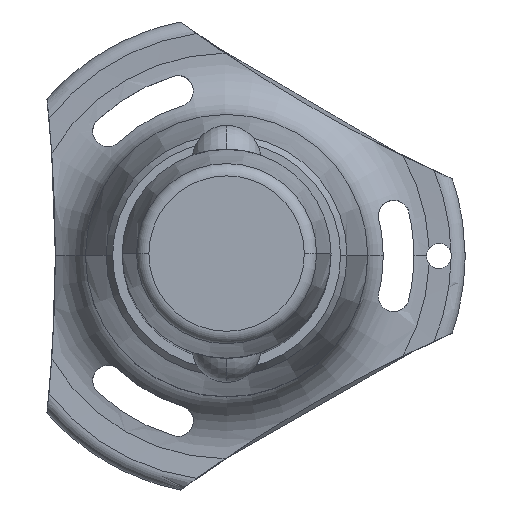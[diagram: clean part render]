
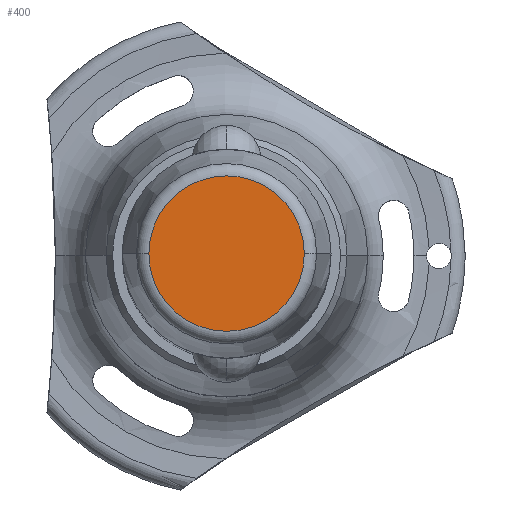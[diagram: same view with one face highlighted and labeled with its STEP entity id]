
A CAD part, top view. The second image highlights one B-rep face of the part: STEP entity #400.
In plain terms, the highlighted planar face has unit normal (0, 0, 1).
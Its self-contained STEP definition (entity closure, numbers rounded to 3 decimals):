
#212 = DIRECTION ( 'NONE',  ( 1., 0., 0. ) ) ;
#279 = AXIS2_PLACEMENT_3D ( 'NONE', #1285, #1952, #212 ) ;
#400 = ADVANCED_FACE ( 'NONE', ( #2622 ), #1303, .T. ) ;
#582 = VERTEX_POINT ( 'NONE', #1833 ) ;
#681 = DIRECTION ( 'NONE',  ( 1., 0., 0. ) ) ;
#691 = CARTESIAN_POINT ( 'NONE',  ( 9.302, 0., 22. ) ) ;
#839 = VERTEX_POINT ( 'NONE', #691 ) ;
#1061 = CIRCLE ( 'NONE', #1887, 9.302 ) ;
#1070 = EDGE_CURVE ( 'NONE', #582, #839, #2265, .T. ) ;
#1220 = CARTESIAN_POINT ( 'NONE',  ( 0., 0., 22. ) ) ;
#1285 = CARTESIAN_POINT ( 'NONE',  ( 0., 0., 22. ) ) ;
#1303 = PLANE ( 'NONE',  #2081 ) ;
#1347 = DIRECTION ( 'NONE',  ( 1., 0., 0. ) ) ;
#1450 = EDGE_CURVE ( 'NONE', #839, #582, #1061, .T. ) ;
#1533 = EDGE_LOOP ( 'NONE', ( #1772, #2449 ) ) ;
#1543 = CARTESIAN_POINT ( 'NONE',  ( 0., 0., 22. ) ) ;
#1772 = ORIENTED_EDGE ( 'NONE', *, *, #1450, .T. ) ;
#1833 = CARTESIAN_POINT ( 'NONE',  ( -9.302, 0., 22. ) ) ;
#1887 = AXIS2_PLACEMENT_3D ( 'NONE', #1220, #2092, #1347 ) ;
#1952 = DIRECTION ( 'NONE',  ( 0., 0., 1. ) ) ;
#2081 = AXIS2_PLACEMENT_3D ( 'NONE', #1543, #2406, #681 ) ;
#2092 = DIRECTION ( 'NONE',  ( 0., 0., 1. ) ) ;
#2265 = CIRCLE ( 'NONE', #279, 9.302 ) ;
#2406 = DIRECTION ( 'NONE',  ( 0., 0., 1. ) ) ;
#2449 = ORIENTED_EDGE ( 'NONE', *, *, #1070, .T. ) ;
#2622 = FACE_OUTER_BOUND ( 'NONE', #1533, .T. ) ;
